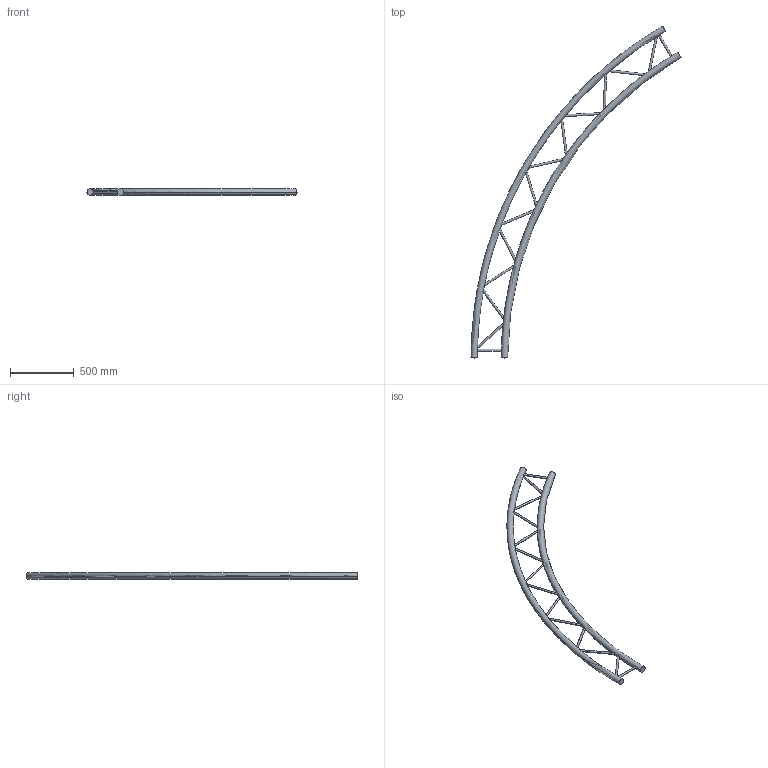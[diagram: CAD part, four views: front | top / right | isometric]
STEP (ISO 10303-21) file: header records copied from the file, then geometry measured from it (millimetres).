
FILE_DESCRIPTION (( 'STEP AP203' ), '1' );
FILE_NAME ('EXC29600H.STEP', '2009-10-26T09:36:51', ( 'CEDIA' ), ( 'CEDIA INDUSTRIE' ), 'SwSTEP 2.0', 'SolidWorks 2009', '' );
FILE_SCHEMA (( 'CONFIG_CONTROL_DESIGN' ));
Length unit declared in the file: millimetre
Products named in the file (1): EXC29600H
Bounding box: 1643.5 x 2598.08 x 50 mm (x, y, z)
Volume: 12464678.8 mm3; surface area: 1119980.6 mm2
Topology: 1 solids, 1 shells, 36 faces, 124 edges, 64 vertices
Faces by surface type: cylinder 28, torus 4, plane 4
Entity records: 3900 total; most frequent: CARTESIAN_POINT 2828, ORIENTED_EDGE 248, DIRECTION 182, EDGE_CURVE 124, AXIS2_PLACEMENT_3D 77, VERTEX_POINT 64, B_SPLINE_CURVE_WITH_KNOTS 56, CIRCLE 40
